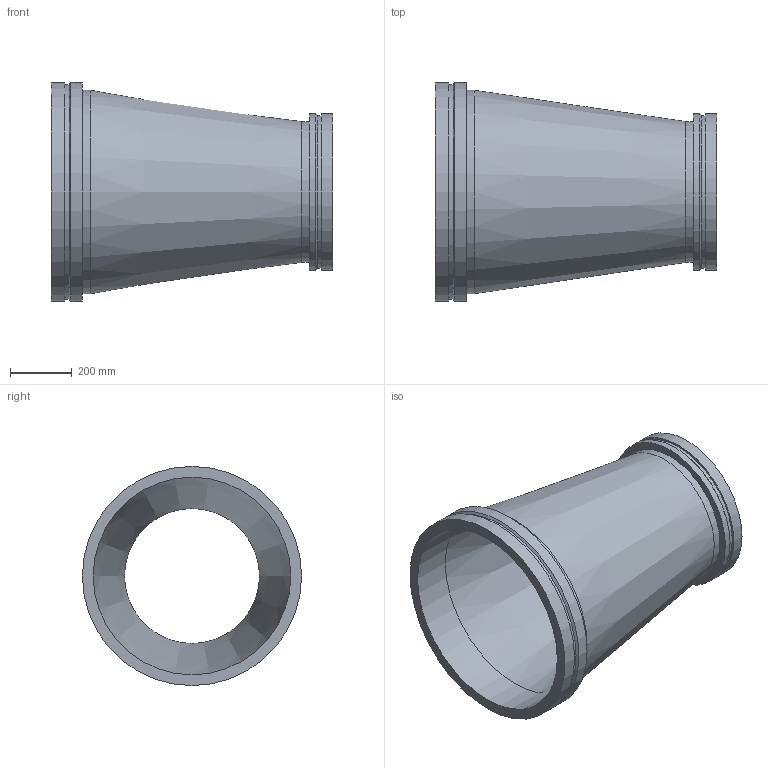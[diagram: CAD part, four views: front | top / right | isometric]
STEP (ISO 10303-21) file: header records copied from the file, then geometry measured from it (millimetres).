
FILE_DESCRIPTION(/* description */ ('VIC REDUCER CONCENTRIC No W50 VR','CAx-IF Rec.Pracs.---Representation and Presentation of Product Manufacturing Information (PMI)---4.0---2014-10-13'),/* implementation_level */ '2;1');
FILE_NAME(/* name */ 'C:\Users\kkamble\AppData\Roaming\Autodesk\ApplicationPlugins\Back Up\Victaulic_Vic-Ring_Reducer Concentric_No W50 VR (AGR)\Victaulic_Vic-Ring_Reducer Concentric_No W50 VR (AGR)_26.0x18.0 (650x450).stp',/* time_stamp */ '2020-09-10T11:45:53+05:00',/* author */ ('cps_temp'),/* organization */ ('Victaulic'),/* preprocessor_version */ 'ST-DEVELOPER v17.2',/* originating_system */ 'Autodesk Inventor 2019',/* authorisation */ '');
FILE_SCHEMA (('AP242_MANAGED_MODEL_BASED_3D_ENGINEERING_MIM_LF { 1 0 10303 442 1 1 4 }'));
Length unit declared in the file: inch
Products named in the file (1): W50 VR-26.0x18.0
Bounding box: 914.4 x 711.2 x 711.2 mm (x, y, z)
Volume: 23192268.6 mm3; surface area: 3482363.1 mm2
Topology: 1 solids, 1 shells, 20 faces, 54 edges, 40 vertices
Faces by surface type: cylinder 10, plane 6, cone 4
Full cylindrical faces by diameter (mm): 438.15 x1, 457.2 x1, 495.3 x1, 508 x2, 641.35 x1, 660.4 x1, 696.722 x1, 711.2 x2
Entity records: 830 total; most frequent: DIRECTION 162, CARTESIAN_POINT 132, ORIENTED_EDGE 108, AXIS2_PLACEMENT_3D 74, EDGE_CURVE 54, CIRCLE 40, VERTEX_POINT 40, EDGE_LOOP 26
